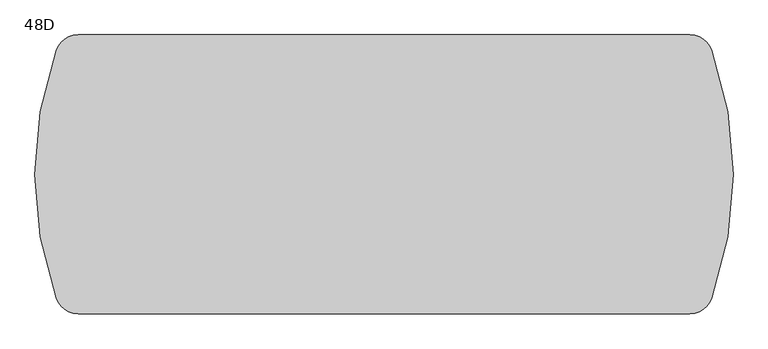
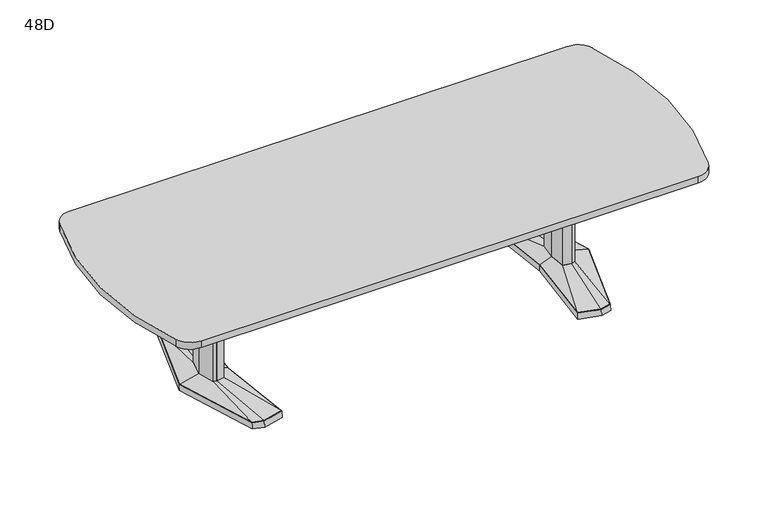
"""IFC4 building model written with IfcOpenShell, lengths in millimetres: furniture geometry, Coalesse_AM_Table_Conference_ETable2_SoftRadiused_10ft_AluminiumBase : 48D."""

from ifc_helpers import new_model, si_unit, frame, origin, place, context, project, spatial, polyline, circle_curve, outline, extrude, faceted_brep, source, transform, mapped, element, save
from ifc_brep_helpers import plane_surface, cylinder_surface, spline_surface, advanced_brep


def furniture_48d_2202244f(model_context):
    return source(origin(), model_context, "Body", "SolidModel", [
        faceted_brep([(905.8306835, 455.5848221, 38.1), (796.2531277, 426.2263816, 38.1), (837.4163717, 0.0, 38.1), (796.2531277, -426.2263816, 38.1), (905.8306835, -455.5848221, 38.1), (961.9570396, -440.5478297, 38.1), (1099.2684269, 0.0, 38.1), (961.9570396, 440.5478297, 38.1), (905.8306754, 457.2283104, 3.175), (963.2124472, 441.8549756, 3.175), (1100.93125, 0.0, 3.175), (963.2124472, -441.8549756, 3.175), (905.8306754, -457.2283104, 3.175), (794.54375, -427.4118891, 3.175), (835.8214856, 0.0, 3.175), (794.54375, 427.4118891, 3.175), (909.420115, 428.3273875, 3.175), (804.3718228, 402.1057253, 3.175), (812.490518, 377.985069, 3.175), (913.0095466, 401.0699529, 3.175), (963.5691725, 387.524361, 3.175), (962.7631061, 414.0360954, 3.175), (909.420115, -428.3273875, 3.175), (962.7631061, -414.0360954, 3.175), (963.5691725, -387.524361, 3.175), (913.0095466, -401.0699529, 3.175), (812.490518, -377.985069, 3.175), (804.3718228, -402.1057253, 3.175), (1036.0153621, 0.0, 3.175), (1003.7459611, 120.4193755, 3.175), (955.0987222, 133.471665, 3.175), (875.2180526, 119.4176561, 3.175), (864.0868466, 0.0, 3.175), (875.2180526, -119.4176561, 3.175), (955.0987222, -133.471665, 3.175), (1003.7459611, -120.4193755, 3.175), (909.420115, 428.3273875, 0.0), (962.7631061, 414.0360954, 0.0), (963.5691725, 387.524361, 0.0), (913.0095466, 401.0699529, 0.0), (812.490518, 377.985069, 0.0), (804.3718228, 402.1057253, 0.0), (909.420115, -428.3273875, 0.0), (804.3718228, -402.1057253, 0.0), (812.490518, -377.985069, 0.0), (913.0095466, -401.0699529, 0.0), (963.5691725, -387.524361, 0.0), (962.7631061, -414.0360954, 0.0), (1036.0153621, 0.0, 0.0), (1003.7459611, -120.4193755, 0.0), (955.0987222, -133.471665, 0.0), (875.2180526, -119.4176561, 0.0), (864.0868466, 0.0, 0.0), (875.2180526, 119.4176561, 0.0), (955.0987222, 133.471665, 0.0), (1003.7459611, 120.4193755, 0.0)], [[[0, 1, 2, 3, 4, 5, 6, 7]], [[8, 9, 10, 11, 12, 13, 14, 15], [16, 17, 18, 19, 20, 21], [22, 23, 24, 25, 26, 27], [28, 29, 30, 31, 32, 33, 34, 35]], [[7, 9, 8, 0]], [[6, 10, 9, 7]], [[5, 11, 10, 6]], [[4, 12, 11, 5]], [[3, 13, 12, 4]], [[2, 14, 13, 3]], [[1, 15, 14, 2]], [[0, 8, 15, 1]], [[36, 37, 38, 39, 40, 41]], [[42, 43, 44, 45, 46, 47]], [[48, 49, 50, 51, 52, 53, 54, 55]], [[36, 16, 21, 37]], [[37, 21, 20, 38]], [[38, 20, 19, 39]], [[39, 19, 18, 40]], [[40, 18, 17, 41]], [[41, 17, 16, 36]], [[42, 22, 27, 43]], [[43, 27, 26, 44]], [[44, 26, 25, 45]], [[45, 25, 24, 46]], [[46, 24, 23, 47]], [[47, 23, 22, 42]], [[48, 28, 35, 49]], [[49, 35, 34, 50]], [[50, 34, 33, 51]], [[51, 33, 32, 52]], [[52, 32, 31, 53]], [[53, 31, 30, 54]], [[54, 30, 29, 55]], [[55, 29, 28, 48]]]),
        faceted_brep([(996.5710836, 0.0, 698.5), (972.6358546, 89.3188359, 698.5), (955.7824984, 93.8406728, 698.5), (953.3826511, 94.4845635, 698.5), (910.455146, 86.9320037, 698.5), (902.3520056, 0.0, 698.5), (910.455146, -86.9320037, 698.5), (953.3826511, -94.4845635, 698.5), (955.7824984, -93.8406728, 698.5), (972.6358546, -89.3188359, 698.5), (996.5710836, 0.0, 63.5), (972.6358546, -89.3188359, 63.5), (955.7824984, -93.8406728, 63.5), (953.3826511, -94.4845635, 63.5), (910.455146, -86.9320037, 63.5), (902.3520056, 0.0, 63.5), (910.455146, 86.9320037, 63.5), (953.3826511, 94.4845635, 63.5), (955.7824984, 93.8406728, 63.5), (972.6358546, 89.3188359, 63.5)], [[[0, 1, 2, 3, 4, 5, 6, 7, 8, 9]], [[10, 11, 12, 13, 14, 15, 16, 17, 18, 19]], [[9, 11, 10, 0]], [[8, 12, 11, 9]], [[7, 13, 12, 8]], [[6, 14, 13, 7]], [[5, 15, 14, 6]], [[4, 16, 15, 5]], [[3, 17, 16, 4]], [[2, 18, 17, 3]], [[1, 19, 18, 2]], [[0, 10, 19, 1]]]),
        advanced_brep(
        [(953.3826511, 94.4845635, 63.5), (910.455146, 86.9320037, 63.5), (902.3520056, 0.0, 63.5), (910.455146, -86.9320037, 63.5), (953.3826511, -94.4845635, 63.5), (972.6358546, -89.3188359, 63.5), (996.5710836, 0.0, 63.5), (972.6358546, 89.3188359, 63.5), (905.8306835, 455.5848221, 38.1), (961.9570396, 440.5478297, 38.1), (1099.2684269, 0.0, 38.1), (961.9570396, -440.5478297, 38.1), (905.8306835, -455.5848221, 38.1), (796.2531277, -426.2263816, 38.1), (837.4163717, 0.0, 38.1), (796.2531277, 426.2263816, 38.1)],
        [
            (0, 1),
            (1, 2),
            (2, 3),
            (3, 4),
            (4, 5),
            (5, 6),
            (6, 7),
            (7, 0),
            (8, 9),
            (9, 10),
            (10, 11),
            (11, 12),
            (12, 13),
            (13, 14),
            (14, 15),
            (15, 8),
            (8, 0),
            (7, 9),
            (6, 10),
            (5, 11),
            (4, 12),
            (3, 13),
            (2, 14),
            (1, 15),
        ],
        [
            plane_surface(frame((946.4837991, 0.0, 63.5), z_axis=(0.0, 0.0, 1.0), x_axis=(-0.25884244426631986, -0.9659195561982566, 0.0))),
            plane_surface(frame((908.0958125, 0.0, 38.1), z_axis=(0.0, 0.0, -1.0), x_axis=(-0.25884244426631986, -0.9659195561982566, 0.0))),
            spline_surface(1, 1, [[(905.8306835, 455.5848221, 38.1), (961.9570396, 440.5478297, 38.1)], [(953.3826511, 94.4845635, 63.5), (972.6358546, 89.3188359, 63.5)]], [2, 2], [2, 2], [0.0, 1.0], [0.0, 1.0]),
            spline_surface(1, 1, [[(961.9570396, 440.5478297, 38.1), (1099.2684269, 0.0, 38.1)], [(972.6358546, 89.3188359, 63.5), (996.5710836, 0.0, 63.5)]], [2, 2], [2, 2], [0.0, 1.0], [0.0, 1.0]),
            spline_surface(1, 1, [[(1099.2684269, 0.0, 38.1), (961.9570396, -440.5478297, 38.1)], [(996.5710836, 0.0, 63.5), (972.6358546, -89.3188359, 63.5)]], [2, 2], [2, 2], [0.0, 1.0], [0.0, 1.0]),
            spline_surface(1, 1, [[(961.9570396, -440.5478297, 38.1), (905.8306835, -455.5848221, 38.1)], [(972.6358546, -89.3188359, 63.5), (953.3826511, -94.4845635, 63.5)]], [2, 2], [2, 2], [0.0, 1.0], [0.0, 1.0]),
            spline_surface(1, 1, [[(905.8306835, -455.5848221, 38.1), (796.2531277, -426.2263816, 38.1)], [(953.3826511, -94.4845635, 63.5), (910.455146, -86.9320037, 63.5)]], [2, 2], [2, 2], [0.0, 1.0], [0.0, 1.0]),
            spline_surface(1, 1, [[(796.2531277, -426.2263816, 38.1), (837.4163717, 0.0, 38.1)], [(910.455146, -86.9320037, 63.5), (902.3520056, 0.0, 63.5)]], [2, 2], [2, 2], [0.0, 1.0], [0.0, 1.0]),
            spline_surface(1, 1, [[(837.4163717, 0.0, 38.1), (796.2531277, 426.2263816, 38.1)], [(902.3520056, 0.0, 63.5), (910.455146, 86.9320037, 63.5)]], [2, 2], [2, 2], [0.0, 1.0], [0.0, 1.0]),
            spline_surface(1, 1, [[(796.2531277, 426.2263816, 38.1), (905.8306835, 455.5848221, 38.1)], [(910.455146, 86.9320037, 63.5), (953.3826511, 94.4845635, 63.5)]], [2, 2], [2, 2], [0.0, 1.0], [0.0, 1.0]),
        ],
        [
            (0, [[1, 2, 3, 4, 5, 6, 7, 8]]),
            (1, [[9, 10, 11, 12, 13, 14, 15, 16]]),
            (2, [[17, -8, 18, -9]]),
            (3, [[-18, -7, 19, -10]]),
            (4, [[-19, -6, 20, -11]]),
            (5, [[-20, -5, 21, -12]]),
            (6, [[-21, -4, 22, -13]]),
            (7, [[-22, -3, 23, -14]]),
            (8, [[-23, -2, 24, -15]]),
            (9, [[-24, -1, -17, -16]]),
        ],
    ),
        faceted_brep([(-905.8306835, 455.5848221, 38.1), (-961.9570396, 440.5478297, 38.1), (-1099.2684269, 0.0, 38.1), (-961.9570396, -440.5478297, 38.1), (-905.8306835, -455.5848221, 38.1), (-796.2531277, -426.2263816, 38.1), (-837.4163717, 0.0, 38.1), (-796.2531277, 426.2263816, 38.1), (-905.8306754, 457.2283104, 3.175), (-794.54375, 427.4118891, 3.175), (-835.8214856, 0.0, 3.175), (-794.54375, -427.4118891, 3.175), (-905.8306754, -457.2283104, 3.175), (-963.2124472, -441.8549756, 3.175), (-1100.93125, 0.0, 3.175), (-963.2124472, 441.8549756, 3.175), (-909.420115, 428.3273875, 3.175), (-962.7631061, 414.0360954, 3.175), (-963.5691725, 387.524361, 3.175), (-913.0095466, 401.0699529, 3.175), (-812.490518, 377.985069, 3.175), (-804.3718228, 402.1057253, 3.175), (-909.420115, -428.3273875, 3.175), (-804.3718228, -402.1057253, 3.175), (-812.490518, -377.985069, 3.175), (-913.0095466, -401.0699529, 3.175), (-963.5691725, -387.524361, 3.175), (-962.7631061, -414.0360954, 3.175), (-1036.0153621, 0.0, 3.175), (-1003.7459611, -120.4193755, 3.175), (-955.0987222, -133.471665, 3.175), (-875.2180526, -119.4176561, 3.175), (-864.0868466, 0.0, 3.175), (-875.2180526, 119.4176561, 3.175), (-955.0987222, 133.471665, 3.175), (-1003.7459611, 120.4193755, 3.175), (-909.420115, 428.3273875, 0.0), (-804.3718228, 402.1057253, 0.0), (-812.490518, 377.985069, 0.0), (-913.0095466, 401.0699529, 0.0), (-963.5691725, 387.524361, 0.0), (-962.7631061, 414.0360954, 0.0), (-909.420115, -428.3273875, 0.0), (-962.7631061, -414.0360954, 0.0), (-963.5691725, -387.524361, 0.0), (-913.0095466, -401.0699529, 0.0), (-812.490518, -377.985069, 0.0), (-804.3718228, -402.1057253, 0.0), (-1036.0153621, 0.0, 0.0), (-1003.7459611, 120.4193755, 0.0), (-955.0987222, 133.471665, 0.0), (-875.2180526, 119.4176561, 0.0), (-864.0868466, 0.0, 0.0), (-875.2180526, -119.4176561, 0.0), (-955.0987222, -133.471665, 0.0), (-1003.7459611, -120.4193755, 0.0)], [[[0, 1, 2, 3, 4, 5, 6, 7]], [[8, 9, 10, 11, 12, 13, 14, 15], [16, 17, 18, 19, 20, 21], [22, 23, 24, 25, 26, 27], [28, 29, 30, 31, 32, 33, 34, 35]], [[1, 0, 8, 15]], [[2, 1, 15, 14]], [[3, 2, 14, 13]], [[4, 3, 13, 12]], [[5, 4, 12, 11]], [[6, 5, 11, 10]], [[7, 6, 10, 9]], [[0, 7, 9, 8]], [[36, 37, 38, 39, 40, 41]], [[42, 43, 44, 45, 46, 47]], [[48, 49, 50, 51, 52, 53, 54, 55]], [[36, 41, 17, 16]], [[41, 40, 18, 17]], [[40, 39, 19, 18]], [[39, 38, 20, 19]], [[38, 37, 21, 20]], [[37, 36, 16, 21]], [[42, 47, 23, 22]], [[47, 46, 24, 23]], [[46, 45, 25, 24]], [[45, 44, 26, 25]], [[44, 43, 27, 26]], [[43, 42, 22, 27]], [[48, 55, 29, 28]], [[55, 54, 30, 29]], [[54, 53, 31, 30]], [[53, 52, 32, 31]], [[52, 51, 33, 32]], [[51, 50, 34, 33]], [[50, 49, 35, 34]], [[49, 48, 28, 35]]]),
        faceted_brep([(-996.5710836, 0.0, 698.5), (-972.6358546, -89.3188359, 698.5), (-955.7824984, -93.8406728, 698.5), (-953.3826511, -94.4845635, 698.5), (-910.455146, -86.9320037, 698.5), (-902.3520056, 0.0, 698.5), (-910.455146, 86.9320037, 698.5), (-953.3826511, 94.4845635, 698.5), (-955.7824984, 93.8406728, 698.5), (-972.6358546, 89.3188359, 698.5), (-996.5710836, 0.0, 63.5), (-972.6358546, 89.3188359, 63.5), (-955.7824984, 93.8406728, 63.5), (-953.3826511, 94.4845635, 63.5), (-910.455146, 86.9320037, 63.5), (-902.3520056, 0.0, 63.5), (-910.455146, -86.9320037, 63.5), (-953.3826511, -94.4845635, 63.5), (-955.7824984, -93.8406728, 63.5), (-972.6358546, -89.3188359, 63.5)], [[[0, 1, 2, 3, 4, 5, 6, 7, 8, 9]], [[10, 11, 12, 13, 14, 15, 16, 17, 18, 19]], [[1, 0, 10, 19]], [[2, 1, 19, 18]], [[3, 2, 18, 17]], [[4, 3, 17, 16]], [[5, 4, 16, 15]], [[6, 5, 15, 14]], [[7, 6, 14, 13]], [[8, 7, 13, 12]], [[9, 8, 12, 11]], [[0, 9, 11, 10]]]),
        advanced_brep(
        [(-953.3826511, 94.4845635, 63.5), (-972.6358546, 89.3188359, 63.5), (-996.5710836, 0.0, 63.5), (-972.6358546, -89.3188359, 63.5), (-953.3826511, -94.4845635, 63.5), (-910.455146, -86.9320037, 63.5), (-902.3520056, 0.0, 63.5), (-910.455146, 86.9320037, 63.5), (-905.8306835, 455.5848221, 38.1), (-796.2531277, 426.2263816, 38.1), (-837.4163717, 0.0, 38.1), (-796.2531277, -426.2263816, 38.1), (-905.8306835, -455.5848221, 38.1), (-961.9570396, -440.5478297, 38.1), (-1099.2684269, 0.0, 38.1), (-961.9570396, 440.5478297, 38.1)],
        [
            (0, 1),
            (1, 2),
            (2, 3),
            (3, 4),
            (4, 5),
            (5, 6),
            (6, 7),
            (7, 0),
            (8, 9),
            (9, 10),
            (10, 11),
            (11, 12),
            (12, 13),
            (13, 14),
            (14, 15),
            (15, 8),
            (15, 1),
            (0, 8),
            (14, 2),
            (13, 3),
            (12, 4),
            (11, 5),
            (10, 6),
            (9, 7),
        ],
        [
            plane_surface(frame((-946.4837991, 0.0, 63.5), z_axis=(0.0, 0.0, 1.0), x_axis=(0.25884244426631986, -0.9659195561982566, 0.0))),
            plane_surface(frame((-908.0958125, 0.0, 38.1), z_axis=(0.0, 0.0, -1.0), x_axis=(0.25884244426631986, -0.9659195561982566, 0.0))),
            spline_surface(1, 1, [[(-905.8306835, 455.5848221, 38.1), (-953.3826511, 94.4845635, 63.5)], [(-961.9570396, 440.5478297, 38.1), (-972.6358546, 89.3188359, 63.5)]], [2, 2], [2, 2], [0.0, 1.0], [0.0, 1.0]),
            spline_surface(1, 1, [[(-961.9570396, 440.5478297, 38.1), (-972.6358546, 89.3188359, 63.5)], [(-1099.2684269, 0.0, 38.1), (-996.5710836, 0.0, 63.5)]], [2, 2], [2, 2], [0.0, 1.0], [0.0, 1.0]),
            spline_surface(1, 1, [[(-1099.2684269, 0.0, 38.1), (-996.5710836, 0.0, 63.5)], [(-961.9570396, -440.5478297, 38.1), (-972.6358546, -89.3188359, 63.5)]], [2, 2], [2, 2], [0.0, 1.0], [0.0, 1.0]),
            spline_surface(1, 1, [[(-961.9570396, -440.5478297, 38.1), (-972.6358546, -89.3188359, 63.5)], [(-905.8306835, -455.5848221, 38.1), (-953.3826511, -94.4845635, 63.5)]], [2, 2], [2, 2], [0.0, 1.0], [0.0, 1.0]),
            spline_surface(1, 1, [[(-905.8306835, -455.5848221, 38.1), (-953.3826511, -94.4845635, 63.5)], [(-796.2531277, -426.2263816, 38.1), (-910.455146, -86.9320037, 63.5)]], [2, 2], [2, 2], [0.0, 1.0], [0.0, 1.0]),
            spline_surface(1, 1, [[(-796.2531277, -426.2263816, 38.1), (-910.455146, -86.9320037, 63.5)], [(-837.4163717, 0.0, 38.1), (-902.3520056, 0.0, 63.5)]], [2, 2], [2, 2], [0.0, 1.0], [0.0, 1.0]),
            spline_surface(1, 1, [[(-837.4163717, 0.0, 38.1), (-902.3520056, 0.0, 63.5)], [(-796.2531277, 426.2263816, 38.1), (-910.455146, 86.9320037, 63.5)]], [2, 2], [2, 2], [0.0, 1.0], [0.0, 1.0]),
            spline_surface(1, 1, [[(-796.2531277, 426.2263816, 38.1), (-910.455146, 86.9320037, 63.5)], [(-905.8306835, 455.5848221, 38.1), (-953.3826511, 94.4845635, 63.5)]], [2, 2], [2, 2], [0.0, 1.0], [0.0, 1.0]),
        ],
        [
            (0, [[1, 2, 3, 4, 5, 6, 7, 8]]),
            (1, [[9, 10, 11, 12, 13, 14, 15, 16]]),
            (2, [[-16, 17, -1, 18]]),
            (3, [[-15, 19, -2, -17]]),
            (4, [[-14, 20, -3, -19]]),
            (5, [[-13, 21, -4, -20]]),
            (6, [[-12, 22, -5, -21]]),
            (7, [[-11, 23, -6, -22]]),
            (8, [[-10, 24, -7, -23]]),
            (9, [[-9, -18, -8, -24]]),
        ],
    ),
        extrude(outline(polyline([(96.8375, 698.5), (103.1875, 698.5), (103.1875, 476.25), (-103.1875, 476.25), (-103.1875, 698.5), (-96.8375, 698.5), (-96.8375, 482.6), (96.8375, 482.6), (96.8375, 698.5)])), frame((-902.49375, 0.0, 0.0), z_axis=(1.0, 0.0, 0.0), x_axis=(0.0, 1.0, 0.0)), (0.0, 0.0, 1.0), 1804.9875),
        advanced_brep(
        [(-1335.2420702, 609.6, 736.6), (-1431.0315996, 541.8662966, 736.6), (-1431.7818993, 539.7441026, 736.6), (-1431.7818993, -539.7441026, 736.6), (-1431.0315996, -541.8662966, 736.6), (-1335.2417376, -609.6, 736.6), (1335.2420702, -609.6, 736.6), (1431.0315996, -541.8662966, 736.6), (1431.7818993, -539.7441026, 736.6), (1431.7818993, 539.7441026, 736.6), (1431.0315996, 541.8662966, 736.6), (1335.2420702, 609.6, 736.6), (-1335.2420702, 609.6, 698.5), (1335.2420702, 609.6, 698.5), (1431.0315996, 541.8662966, 698.5), (1431.7818993, 539.7441026, 698.5), (1431.7818993, -539.7441026, 698.5), (1431.0315996, -541.8662966, 698.5), (1335.2420702, -609.6, 698.5), (-1335.2417376, -609.6, 698.5), (-1431.0312448, -541.8663594, 698.5), (-1431.7818993, -539.7441026, 698.5), (-1431.7818993, 539.7441026, 698.5), (-1431.0315996, 541.8662966, 698.5)],
        [
            (0, 1, circle_curve(frame((-1335.2420702, 508.0, 736.6), z_axis=(0.0, 0.0, 1.0), x_axis=(1.0, 0.0, 0.0)), 101.6)),
            (1, 2),
            (2, 3, circle_curve(frame((94.8637263, 0.0, 736.6), z_axis=(0.0, 0.0, 1.0), x_axis=(1.0, 0.0, 0.0)), 1619.25)),
            (3, 4),
            (4, 5, circle_curve(frame((-1335.2417376, -508.0, 736.6), z_axis=(0.0, 0.0, 1.0), x_axis=(1.0, 0.0, 0.0)), 101.6)),
            (5, 6),
            (6, 7, circle_curve(frame((1335.2420702, -508.0, 736.6), z_axis=(0.0, 0.0, 1.0), x_axis=(1.0, 0.0, 0.0)), 101.6)),
            (7, 8),
            (8, 9, circle_curve(frame((-94.8637263, 0.0, 736.6), z_axis=(0.0, 0.0, 1.0), x_axis=(1.0, 0.0, 0.0)), 1619.25)),
            (9, 10),
            (10, 11, circle_curve(frame((1335.2420702, 508.0, 736.6), z_axis=(0.0, 0.0, 1.0), x_axis=(1.0, 0.0, 0.0)), 101.6)),
            (11, 0),
            (12, 13),
            (13, 14, circle_curve(frame((1335.2420702, 508.0, 698.5), z_axis=(0.0, 0.0, -1.0), x_axis=(1.0, 0.0, 0.0)), 101.6)),
            (14, 15),
            (15, 16, circle_curve(frame((-94.8637263, 0.0, 698.5), z_axis=(0.0, 0.0, -1.0), x_axis=(1.0, 0.0, 0.0)), 1619.25)),
            (16, 17),
            (17, 18, circle_curve(frame((1335.2420702, -508.0, 698.5), z_axis=(0.0, 0.0, -1.0), x_axis=(1.0, 0.0, 0.0)), 101.6)),
            (18, 19),
            (19, 20, circle_curve(frame((-1335.2417376, -508.0, 698.5), z_axis=(0.0, 0.0, -1.0), x_axis=(1.0, 0.0, 0.0)), 101.6)),
            (20, 21),
            (21, 22, circle_curve(frame((94.8637263, 0.0, 698.5), z_axis=(0.0, 0.0, -1.0), x_axis=(1.0, 0.0, 0.0)), 1619.25)),
            (22, 23),
            (23, 12, circle_curve(frame((-1335.2420702, 508.0, 698.5), z_axis=(0.0, 0.0, -1.0), x_axis=(1.0, 0.0, 0.0)), 101.6)),
            (0, 12),
            (23, 1),
            (22, 2),
            (21, 3),
            (20, 4),
            (19, 5),
            (18, 6),
            (17, 7),
            (16, 8),
            (15, 9),
            (14, 10),
            (13, 11),
        ],
        [
            plane_surface(frame((-1233.6420702, 508.0, 736.6), z_axis=(0.0, 0.0, 1.0), x_axis=(0.0, 1.0, 0.0))),
            plane_surface(frame((-1233.6420702, 508.0, 698.5), z_axis=(0.0, 0.0, -1.0), x_axis=(0.0, -1.0, 0.0))),
            cylinder_surface(frame((-1335.2420702, 508.0, 698.5), z_axis=(0.0, 0.0, 1.0), x_axis=(1.0, 0.0, 0.0)), 101.6),
            plane_surface(frame((-1431.0315996, 541.8662966, 736.6), z_axis=(-0.9428103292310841, 0.33332969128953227, 0.0), x_axis=(0.0, 0.0, -1.0))),
            cylinder_surface(frame((94.8637263, 0.0, 698.5), z_axis=(0.0, 0.0, 1.0), x_axis=(1.0, 0.0, 0.0)), 1619.25),
            plane_surface(frame((-1431.7818993, -539.7441026, 736.6), z_axis=(-0.9428103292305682, -0.33332969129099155, 0.0), x_axis=(0.0, 0.0, -1.0))),
            cylinder_surface(frame((-1335.2417376, -508.0, 698.5), z_axis=(0.0, 0.0, 1.0), x_axis=(1.0, 0.0, 0.0)), 101.6),
            plane_surface(frame((-1335.2417376, -609.6, 736.6), z_axis=(0.0, -1.0, 0.0), x_axis=(0.0, 0.0, -1.0))),
            cylinder_surface(frame((1335.2420702, -508.0, 698.5), z_axis=(0.0, 0.0, 1.0), x_axis=(1.0, 0.0, 0.0)), 101.6),
            plane_surface(frame((1431.0315996, -541.8662966, 736.6), z_axis=(0.9428103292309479, -0.3333296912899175, 0.0), x_axis=(0.0, 0.0, -1.0))),
            cylinder_surface(frame((-94.8637263, 0.0, 698.5), z_axis=(0.0, 0.0, 1.0), x_axis=(1.0, 0.0, 0.0)), 1619.25),
            plane_surface(frame((1431.7818993, 539.7441026, 736.6), z_axis=(0.9428103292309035, 0.33332969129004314, 0.0), x_axis=(0.0, 0.0, -1.0))),
            cylinder_surface(frame((1335.2420702, 508.0, 698.5), z_axis=(0.0, 0.0, 1.0), x_axis=(1.0, 0.0, 0.0)), 101.6),
            plane_surface(frame((1335.2420702, 609.6, 736.6), z_axis=(0.0, 1.0, 0.0), x_axis=(0.0, 0.0, -1.0))),
        ],
        [
            (0, [[1, 2, 3, 4, 5, 6, 7, 8, 9, 10, 11, 12]]),
            (1, [[13, 14, 15, 16, 17, 18, 19, 20, 21, 22, 23, 24]]),
            (2, [[-1, 25, -24, 26]]),
            (3, [[-2, -26, -23, 27]]),
            (4, [[-3, -27, -22, 28]]),
            (5, [[-4, -28, -21, 29]]),
            (6, [[-5, -29, -20, 30]]),
            (7, [[-6, -30, -19, 31]]),
            (8, [[-7, -31, -18, 32]]),
            (9, [[-8, -32, -17, 33]]),
            (10, [[-9, -33, -16, 34]]),
            (11, [[-10, -34, -15, 35]]),
            (12, [[-11, -35, -14, 36]]),
            (13, [[-12, -36, -13, -25]]),
        ],
    ),
    ])


if __name__ == "__main__":
    model = new_model("IFC4")
    model_context = context("Model", 3, world=origin())
    ifc_project = project(units=[si_unit("LENGTHUNIT", "METRE", prefix="MILLI")], contexts=[model_context])
    site = spatial("IfcSite", under=ifc_project)
    building = spatial("IfcBuilding", under=site)
    placement = place(None, origin())
    furniture_48d_shape = furniture_48d_2202244f(model_context)
    element("IfcFurniture", 1, ObjectType="Coalesse_AM_Table_Conference_ETable2_SoftRadiused_10ft_AluminiumBase : 48D", at=placement, inside=building, context=model_context, shape_type="MappedRepresentation", body=[
        mapped(furniture_48d_shape, transform((0.0, 0.0, 0.0), x_axis=(1.0, 0.0, 0.0), y_axis=(0.0, 1.0, 0.0), z_axis=(0.0, 0.0, 1.0))),
    ])
    save(model, "model.ifc")
